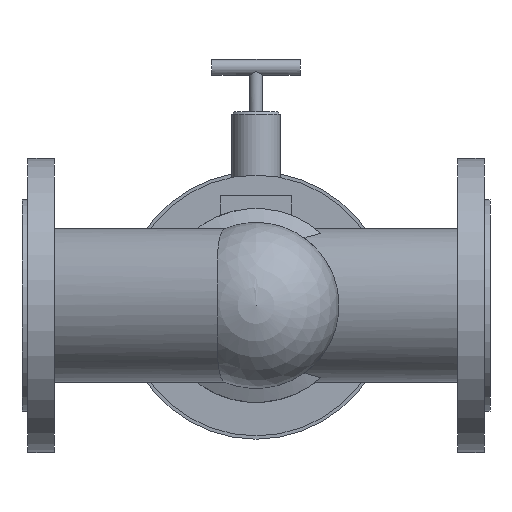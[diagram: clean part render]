
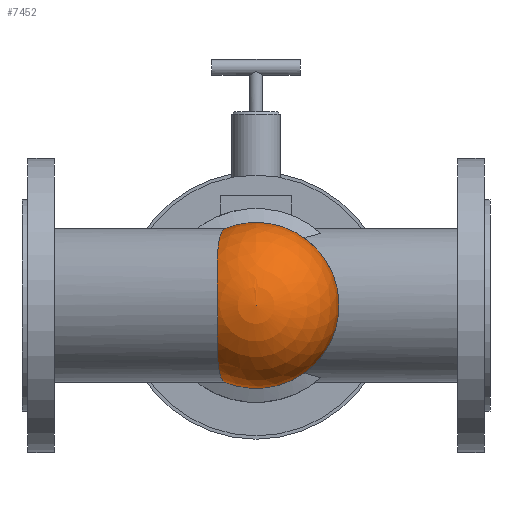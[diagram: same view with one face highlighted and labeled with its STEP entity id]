
A CAD part, front view. The second image highlights one B-rep face of the part: STEP entity #7452.
In plain terms, the highlighted spherical face has radius 62 mm.
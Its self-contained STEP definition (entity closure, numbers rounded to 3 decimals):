
#14=SPHERICAL_SURFACE('',#7922,62.);
#254=B_SPLINE_CURVE_WITH_KNOTS('',3,(#12479,#12480,#12481,#12482,#12483,
#12484,#12485,#12486,#12487,#12488,#12489,#12490,#12491,#12492,#12493,#12494,
#12495,#12496),.UNSPECIFIED.,.F.,.F.,(4,2,2,2,2,2,2,2,4),(-35.023,
-33.935,-32.846,-31.758,-30.669,
-29.558,-28.447,-27.336,-26.64),
 .UNSPECIFIED.);
#255=B_SPLINE_CURVE_WITH_KNOTS('',3,(#12497,#12498,#12499,#12500,#12501,
#12502,#12503,#12504,#12505,#12506,#12507,#12508,#12509,#12510,#12511,#12512,
#12513,#12514),.UNSPECIFIED.,.F.,.F.,(4,2,2,2,2,2,2,2,4),(26.64,
27.336,28.447,29.558,30.669,31.758,
32.846,33.935,35.023),.UNSPECIFIED.);
#1024=FACE_OUTER_BOUND('',#1457,.T.);
#1457=EDGE_LOOP('',(#6624,#6625,#6626,#6627,#6628,#6629));
#2988=CIRCLE('',#7778,62.);
#2989=CIRCLE('',#7779,62.);
#3045=CIRCLE('',#7923,62.);
#3545=VERTEX_POINT('',#12223);
#3546=VERTEX_POINT('',#12224);
#3547=VERTEX_POINT('',#12226);
#3586=VERTEX_POINT('',#12478);
#3709=VERTEX_POINT('',#12897);
#4459=EDGE_CURVE('',#3545,#3546,#2988,.T.);
#4460=EDGE_CURVE('',#3546,#3547,#2989,.T.);
#4519=EDGE_CURVE('',#3586,#3547,#254,.T.);
#4520=EDGE_CURVE('',#3545,#3586,#255,.T.);
#4705=EDGE_CURVE('',#3546,#3709,#3045,.T.);
#6624=ORIENTED_EDGE('',*,*,#4519,.T.);
#6625=ORIENTED_EDGE('',*,*,#4460,.F.);
#6626=ORIENTED_EDGE('',*,*,#4705,.T.);
#6627=ORIENTED_EDGE('',*,*,#4705,.F.);
#6628=ORIENTED_EDGE('',*,*,#4459,.F.);
#6629=ORIENTED_EDGE('',*,*,#4520,.T.);
#7452=ADVANCED_FACE('',(#1024),#14,.T.);
#7778=AXIS2_PLACEMENT_3D('',#12225,#9050,#9051);
#7779=AXIS2_PLACEMENT_3D('',#12227,#9052,#9053);
#7922=AXIS2_PLACEMENT_3D('',#12896,#9511,#9512);
#7923=AXIS2_PLACEMENT_3D('',#12898,#9513,#9514);
#9050=DIRECTION('center_axis',(0.,1.,0.));
#9051=DIRECTION('ref_axis',(1.,0.,0.));
#9052=DIRECTION('center_axis',(0.,1.,0.));
#9053=DIRECTION('ref_axis',(1.,0.,0.));
#9511=DIRECTION('center_axis',(0.,1.,0.));
#9512=DIRECTION('ref_axis',(0.,0.,-1.));
#9513=DIRECTION('center_axis',(1.,0.,0.));
#9514=DIRECTION('ref_axis',(0.,0.,1.));
#12223=CARTESIAN_POINT('',(-107.085,-183.374,20.351));
#12224=CARTESIAN_POINT('',(-83.53,-183.374,25.));
#12225=CARTESIAN_POINT('Origin',(-83.53,-183.374,-37.));
#12226=CARTESIAN_POINT('',(-107.085,-183.374,-94.351));
#12227=CARTESIAN_POINT('Origin',(-83.53,-183.374,-37.));
#12478=CARTESIAN_POINT('',(-112.16,-238.368,-37.));
#12479=CARTESIAN_POINT('Ctrl Pts',(-112.16,-238.368,
-37.));
#12480=CARTESIAN_POINT('Ctrl Pts',(-112.16,-238.368,
-40.628));
#12481=CARTESIAN_POINT('Ctrl Pts',(-112.21,-237.978,
-44.362));
#12482=CARTESIAN_POINT('Ctrl Pts',(-112.356,-236.379,-51.763));
#12483=CARTESIAN_POINT('Ctrl Pts',(-112.446,-235.172,
-55.431));
#12484=CARTESIAN_POINT('Ctrl Pts',(-112.549,-232.043,
-62.456));
#12485=CARTESIAN_POINT('Ctrl Pts',(-112.561,-230.12,
-65.818));
#12486=CARTESIAN_POINT('Ctrl Pts',(-112.446,-225.738,
-72.038));
#12487=CARTESIAN_POINT('Ctrl Pts',(-112.319,-223.279,
-74.894));
#12488=CARTESIAN_POINT('Ctrl Pts',(-111.933,-218.037,-80.006));
#12489=CARTESIAN_POINT('Ctrl Pts',(-111.656,-215.062,
-82.43));
#12490=CARTESIAN_POINT('Ctrl Pts',(-110.937,-208.617,-86.707));
#12491=CARTESIAN_POINT('Ctrl Pts',(-110.495,-205.146,
-88.559));
#12492=CARTESIAN_POINT('Ctrl Pts',(-109.476,-197.932,
-91.538));
#12493=CARTESIAN_POINT('Ctrl Pts',(-108.899,-194.182,
-92.666));
#12494=CARTESIAN_POINT('Ctrl Pts',(-107.895,-188.065,
-93.87));
#12495=CARTESIAN_POINT('Ctrl Pts',(-107.493,-185.705,
-94.183));
#12496=CARTESIAN_POINT('Ctrl Pts',(-107.085,-183.374,-94.351));
#12497=CARTESIAN_POINT('Ctrl Pts',(-107.085,-183.374,20.351));
#12498=CARTESIAN_POINT('Ctrl Pts',(-107.493,-185.705,
20.183));
#12499=CARTESIAN_POINT('Ctrl Pts',(-107.895,-188.065,
19.87));
#12500=CARTESIAN_POINT('Ctrl Pts',(-108.899,-194.182,
18.666));
#12501=CARTESIAN_POINT('Ctrl Pts',(-109.476,-197.932,
17.538));
#12502=CARTESIAN_POINT('Ctrl Pts',(-110.495,-205.146,
14.559));
#12503=CARTESIAN_POINT('Ctrl Pts',(-110.937,-208.617,12.707));
#12504=CARTESIAN_POINT('Ctrl Pts',(-111.656,-215.062,
8.43));
#12505=CARTESIAN_POINT('Ctrl Pts',(-111.933,-218.037,6.006));
#12506=CARTESIAN_POINT('Ctrl Pts',(-112.319,-223.279,
0.894));
#12507=CARTESIAN_POINT('Ctrl Pts',(-112.446,-225.738,
-1.962));
#12508=CARTESIAN_POINT('Ctrl Pts',(-112.561,-230.12,
-8.182));
#12509=CARTESIAN_POINT('Ctrl Pts',(-112.549,-232.043,
-11.544));
#12510=CARTESIAN_POINT('Ctrl Pts',(-112.446,-235.172,
-18.569));
#12511=CARTESIAN_POINT('Ctrl Pts',(-112.356,-236.379,-22.237));
#12512=CARTESIAN_POINT('Ctrl Pts',(-112.21,-237.978,
-29.638));
#12513=CARTESIAN_POINT('Ctrl Pts',(-112.16,-238.368,
-33.372));
#12514=CARTESIAN_POINT('Ctrl Pts',(-112.16,-238.368,
-37.));
#12896=CARTESIAN_POINT('Origin',(-83.53,-183.374,-37.));
#12897=CARTESIAN_POINT('',(-83.53,-245.374,-37.));
#12898=CARTESIAN_POINT('Origin',(-83.53,-183.374,-37.));
